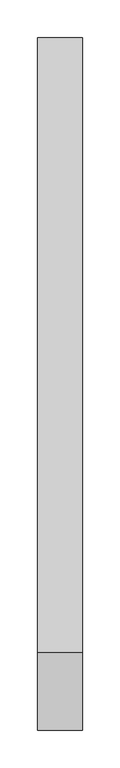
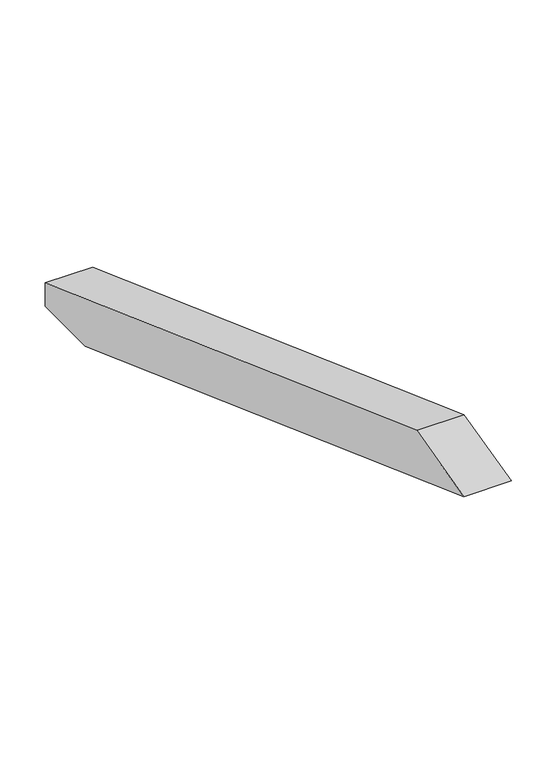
"""IFC4 building model written with IfcOpenShell, lengths in millimetres: proxy geometry, Modelos genéricos 14 : Modelos genéricos 14."""

from ifc_helpers import new_model, si_unit, frame, origin, place, context, project, spatial, polyline, outline, extrude, source, transform, mapped, element, save


def generic_models_fe819298(model_context):
    return source(origin(), model_context, "Body", "SweptSolid", [
        extrude(outline(polyline([(-422.9933771, 3463.5158927), (-318.8830723, 3489.473507), (498.6238165, 3191.9253332), (498.6238165, 3160.0), (410.9096845, 3160.0), (-422.9933771, 3463.5158927)])), frame((-12676.5527533, 0.0, 0.0), z_axis=(1.0, 0.0, 0.0), x_axis=(0.0, 1.0, 0.0)), (0.0, 0.0, 1.0), 60.0),
    ])


if __name__ == "__main__":
    model = new_model("IFC4")
    model_context = context("Model", 3, world=origin())
    ifc_project = project(units=[si_unit("LENGTHUNIT", "METRE", prefix="MILLI")], contexts=[model_context])
    site = spatial("IfcSite", under=ifc_project)
    building = spatial("IfcBuilding", under=site)
    placement = place(None, origin())
    generic_models_shape = generic_models_fe819298(model_context)
    element("IfcBuildingElementProxy", 1, Name="Modelos genéricos 14 : Modelos genéricos 14", ObjectType="Modelos genéricos 14 : Modelos genéricos 14", at=placement, inside=building, context=model_context, shape_type="MappedRepresentation", body=[
        mapped(generic_models_shape, transform((0.0, 0.0, 0.0), x_axis=(1.0, 0.0, 0.0), y_axis=(0.0, 1.0, 0.0), z_axis=(0.0, 0.0, 1.0))),
    ])
    save(model, "model.ifc")
